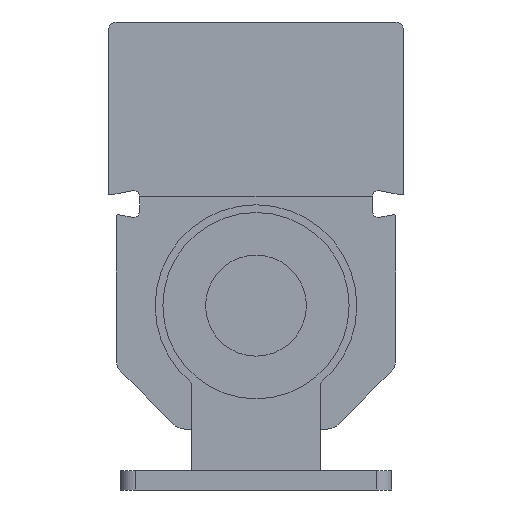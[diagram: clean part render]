
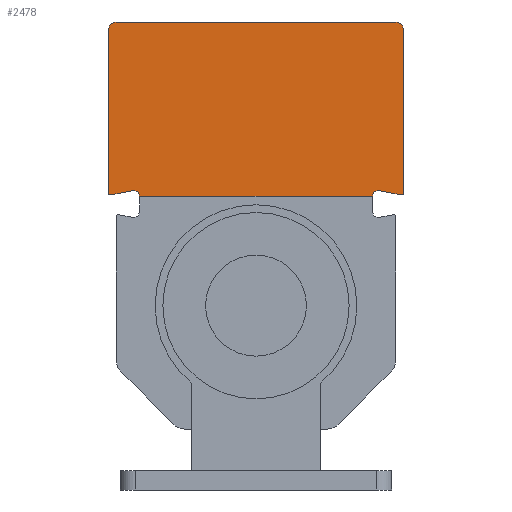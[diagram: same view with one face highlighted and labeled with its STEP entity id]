
A CAD part, front view. The second image highlights one B-rep face of the part: STEP entity #2478.
In plain terms, the highlighted planar face has unit normal (0, -1, 0).
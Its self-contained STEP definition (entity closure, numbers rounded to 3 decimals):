
#64=CIRCLE('',#2564,0.3);
#68=CIRCLE('',#2569,1.6);
#92=CIRCLE('',#2620,0.3);
#94=CIRCLE('',#2623,1.6);
#108=CIRCLE('',#2652,2.);
#114=CIRCLE('',#2663,2.);
#628=ORIENTED_EDGE('',*,*,#924,.F.);
#629=ORIENTED_EDGE('',*,*,#895,.T.);
#630=ORIENTED_EDGE('',*,*,#867,.T.);
#631=ORIENTED_EDGE('',*,*,#893,.T.);
#632=ORIENTED_EDGE('',*,*,#888,.T.);
#633=ORIENTED_EDGE('',*,*,#921,.T.);
#634=ORIENTED_EDGE('',*,*,#684,.T.);
#635=ORIENTED_EDGE('',*,*,#929,.T.);
#636=ORIENTED_EDGE('',*,*,#836,.T.);
#637=ORIENTED_EDGE('',*,*,#814,.T.);
#638=ORIENTED_EDGE('',*,*,#872,.T.);
#639=ORIENTED_EDGE('',*,*,#821,.T.);
#684=EDGE_CURVE('',#943,#942,#1115,.T.);
#814=EDGE_CURVE('',#1050,#1049,#64,.T.);
#821=EDGE_CURVE('',#1056,#1055,#68,.T.);
#836=EDGE_CURVE('',#1065,#1050,#1222,.T.);
#867=EDGE_CURVE('',#1085,#1084,#1243,.T.);
#872=EDGE_CURVE('',#1049,#1056,#1246,.T.);
#888=EDGE_CURVE('',#1095,#1094,#1257,.T.);
#893=EDGE_CURVE('',#1084,#1095,#92,.T.);
#895=EDGE_CURVE('',#1096,#1085,#94,.T.);
#921=EDGE_CURVE('',#1094,#943,#108,.T.);
#924=EDGE_CURVE('',#1096,#1055,#1272,.T.);
#929=EDGE_CURVE('',#942,#1065,#114,.T.);
#942=VERTEX_POINT('',#3237);
#943=VERTEX_POINT('',#3239);
#1049=VERTEX_POINT('',#3517);
#1050=VERTEX_POINT('',#3519);
#1055=VERTEX_POINT('',#3531);
#1056=VERTEX_POINT('',#3533);
#1065=VERTEX_POINT('',#3566);
#1084=VERTEX_POINT('',#3622);
#1085=VERTEX_POINT('',#3624);
#1094=VERTEX_POINT('',#3665);
#1095=VERTEX_POINT('',#3667);
#1096=VERTEX_POINT('',#3678);
#1115=LINE('',#3238,#1283);
#1222=LINE('',#3565,#1390);
#1243=LINE('',#3623,#1411);
#1246=LINE('',#3633,#1414);
#1257=LINE('',#3666,#1425);
#1272=LINE('',#3735,#1440);
#1283=VECTOR('',#2686,1000.);
#1390=VECTOR('',#2957,1000.);
#1411=VECTOR('',#3012,1000.);
#1414=VECTOR('',#3023,1000.);
#1425=VECTOR('',#3064,1000.);
#1440=VECTOR('',#3161,1000.);
#1541=EDGE_LOOP('',(#628,#629,#630,#631,#632,#633,#634,#635,#636,#637,#638,
#639));
#1651=FACE_BOUND('',#1541,.T.);
#1716=PLANE('',#2662);
#2478=ADVANCED_FACE('',(#1651),#1716,.T.);
#2564=AXIS2_PLACEMENT_3D('',#3518,#2914,#2915);
#2569=AXIS2_PLACEMENT_3D('',#3532,#2927,#2928);
#2620=AXIS2_PLACEMENT_3D('',#3674,#3076,#3077);
#2623=AXIS2_PLACEMENT_3D('',#3677,#3082,#3083);
#2652=AXIS2_PLACEMENT_3D('',#3730,#3152,#3153);
#2662=AXIS2_PLACEMENT_3D('',#3742,#3174,#3175);
#2663=AXIS2_PLACEMENT_3D('',#3743,#3176,#3177);
#2686=DIRECTION('',(-1.,0.,0.));
#2914=DIRECTION('',(0.,-1.,0.));
#2915=DIRECTION('',(1.,0.,0.));
#2927=DIRECTION('',(0.,1.,0.));
#2928=DIRECTION('',(1.,0.,0.));
#2957=DIRECTION('',(0.,0.,-1.));
#3012=DIRECTION('',(0.982,0.,-0.191));
#3023=DIRECTION('',(0.982,0.,0.191));
#3064=DIRECTION('',(0.,0.,1.));
#3076=DIRECTION('',(0.,-1.,0.));
#3077=DIRECTION('',(0.,0.,-1.));
#3082=DIRECTION('',(0.,1.,0.));
#3083=DIRECTION('',(1.,0.,0.));
#3152=DIRECTION('',(0.,-1.,0.));
#3153=DIRECTION('',(0.,0.,-1.));
#3161=DIRECTION('',(-1.,0.,0.));
#3174=DIRECTION('',(0.,-1.,0.));
#3175=DIRECTION('',(0.,0.,-1.));
#3176=DIRECTION('',(0.,-1.,0.));
#3177=DIRECTION('',(0.,0.,-1.));
#3237=CARTESIAN_POINT('',(-36.,-457.2,59.15));
#3238=CARTESIAN_POINT('',(36.,-457.2,59.15));
#3239=CARTESIAN_POINT('',(36.,-457.2,59.15));
#3517=CARTESIAN_POINT('',(-37.643,-457.2,14.569));
#3518=CARTESIAN_POINT('',(-37.7,-457.2,14.864));
#3519=CARTESIAN_POINT('',(-38.,-457.2,14.864));
#3531=CARTESIAN_POINT('',(-30.006,-457.2,14.25));
#3532=CARTESIAN_POINT('',(-31.6,-457.2,14.114));
#3533=CARTESIAN_POINT('',(-31.905,-457.2,15.685));
#3565=CARTESIAN_POINT('',(-38.,-457.2,43.75));
#3566=CARTESIAN_POINT('',(-38.,-457.2,57.15));
#3622=CARTESIAN_POINT('',(37.643,-457.2,14.569));
#3623=CARTESIAN_POINT('',(31.905,-457.2,15.685));
#3624=CARTESIAN_POINT('',(31.905,-457.2,15.685));
#3633=CARTESIAN_POINT('',(-37.643,-457.2,14.569));
#3665=CARTESIAN_POINT('',(38.,-457.2,57.15));
#3666=CARTESIAN_POINT('',(38.,-457.2,14.864));
#3667=CARTESIAN_POINT('',(38.,-457.2,14.864));
#3674=CARTESIAN_POINT('',(37.7,-457.2,14.864));
#3677=CARTESIAN_POINT('',(31.6,-457.2,14.114));
#3678=CARTESIAN_POINT('',(30.006,-457.2,14.25));
#3730=CARTESIAN_POINT('',(36.,-457.2,57.15));
#3735=CARTESIAN_POINT('',(36.,-457.2,14.25));
#3742=CARTESIAN_POINT('',(36.,-457.2,43.75));
#3743=CARTESIAN_POINT('',(-36.,-457.2,57.15));
